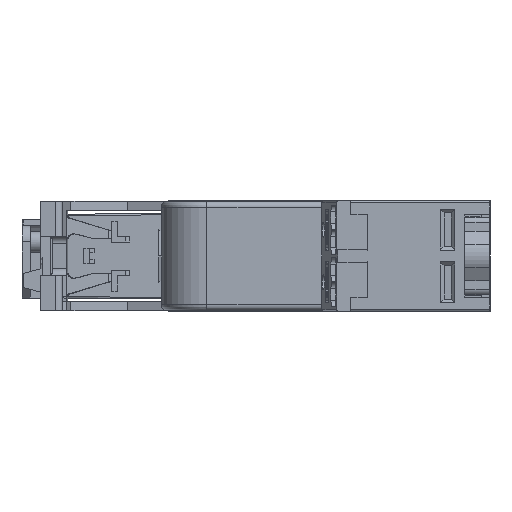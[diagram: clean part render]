
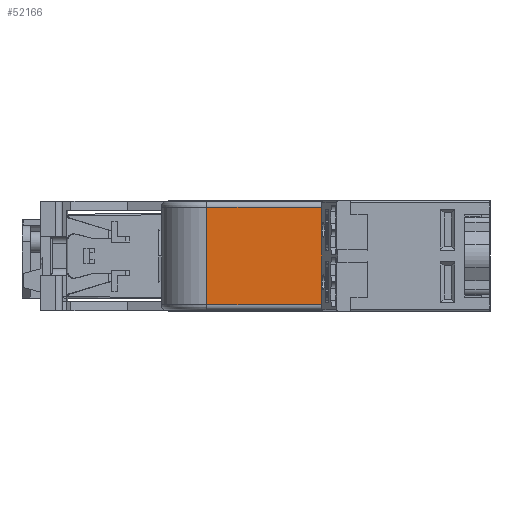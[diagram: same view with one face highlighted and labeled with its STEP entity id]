
A CAD part, left-side view. The second image highlights one B-rep face of the part: STEP entity #52166.
In plain terms, the highlighted planar face has unit normal (-1, 0, 0).
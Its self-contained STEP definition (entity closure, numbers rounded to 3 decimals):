
#15498=ORIENTED_EDGE('',*,*,#23301,.T.);
#15499=ORIENTED_EDGE('',*,*,#23302,.T.);
#15500=ORIENTED_EDGE('',*,*,#23303,.T.);
#15501=ORIENTED_EDGE('',*,*,#23304,.T.);
#23301=EDGE_CURVE('',#29127,#29128,#35782,.T.);
#23302=EDGE_CURVE('',#29128,#29129,#35783,.T.);
#23303=EDGE_CURVE('',#29129,#29130,#35784,.T.);
#23304=EDGE_CURVE('',#29130,#29127,#35785,.T.);
#29127=VERTEX_POINT('',#88669);
#29128=VERTEX_POINT('',#88670);
#29129=VERTEX_POINT('',#88672);
#29130=VERTEX_POINT('',#88674);
#35782=LINE('',#88668,#42286);
#35783=LINE('',#88671,#42287);
#35784=LINE('',#88673,#42288);
#35785=LINE('',#88675,#42289);
#42286=VECTOR('',#71287,1000.);
#42287=VECTOR('',#71288,1000.);
#42288=VECTOR('',#71289,1000.);
#42289=VECTOR('',#71290,1000.);
#45233=EDGE_LOOP('',(#15498,#15499,#15500,#15501));
#47840=FACE_BOUND('',#45233,.T.);
#49767=PLANE('',#58627);
#52166=ADVANCED_FACE('LABEL',(#47840),#49767,.T.);
#58627=AXIS2_PLACEMENT_3D('',#88667,#71285,#71286);
#71285=DIRECTION('',(-1.,0.,0.));
#71286=DIRECTION('',(0.,-1.,0.));
#71287=DIRECTION('',(0.,-1.,0.));
#71288=DIRECTION('',(0.,0.,1.));
#71289=DIRECTION('',(0.,1.,0.));
#71290=DIRECTION('',(0.,0.,-1.));
#88667=CARTESIAN_POINT('',(13.77,40.424,53.025));
#88668=CARTESIAN_POINT('',(13.77,40.4,53.051));
#88669=CARTESIAN_POINT('',(13.77,40.4,53.051));
#88670=CARTESIAN_POINT('',(13.77,17.5,53.051));
#88671=CARTESIAN_POINT('',(13.77,17.5,53.051));
#88672=CARTESIAN_POINT('',(13.77,17.5,66.951));
#88673=CARTESIAN_POINT('',(13.77,17.5,66.951));
#88674=CARTESIAN_POINT('',(13.77,40.4,66.951));
#88675=CARTESIAN_POINT('',(13.77,40.4,66.951));
